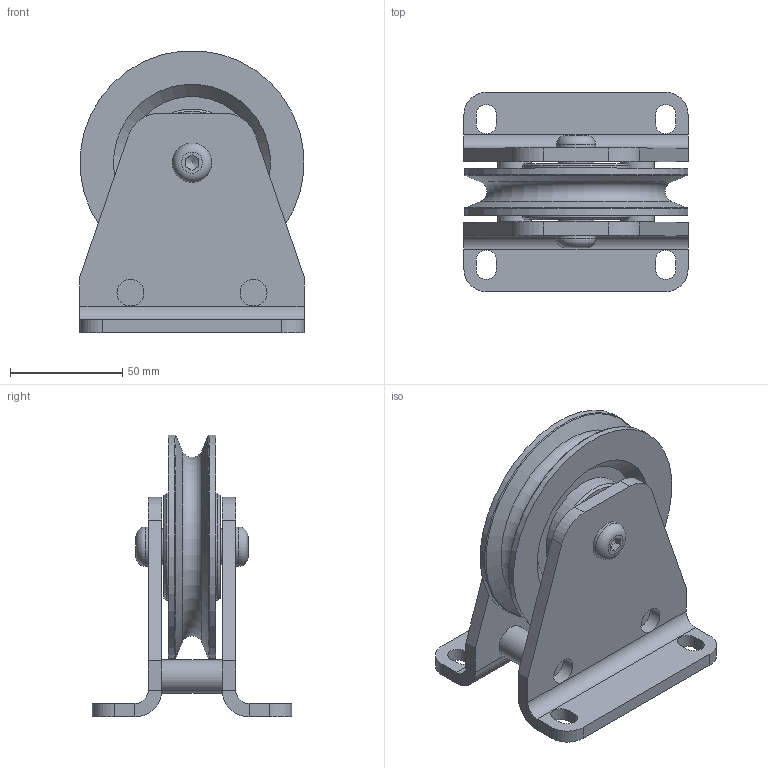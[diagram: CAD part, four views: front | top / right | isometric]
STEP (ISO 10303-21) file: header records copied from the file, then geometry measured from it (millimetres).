
FILE_DESCRIPTION(/* description */ ('Seilrollenbock ø100 Stahl Gleitlager komplett'),/* implementation_level */ '2;1');
FILE_NAME(/* name */ 'Z:\Workspace\03 Seilrollen\1.405 Seilrollenbock Stahl Gleitlager\1.405.03 Seilrollenbock ø100 Stahl Gleitlager\1.405.03 Seilrollenbock ø100 Stahl Gleitlager komplett.stp',/* time_stamp */ '2021-10-05T14:30:48+02:00',/* author */ ('cad-user'),/* organization */ (''),/* preprocessor_version */ 'ST-DEVELOPER v18',/* originating_system */ 'Autodesk Inventor 2020',/* authorisation */ '');
FILE_SCHEMA (('AUTOMOTIVE_DESIGN { 1 0 10303 214 3 1 1 }'));
Length unit declared in the file: millimetre
Products named in the file (8): 1.405.03 Seilrollenbock ø100 Stahl Gleitlager kompl
ett; 1.405.03.01 Seilrollenbock Schweißteil; 1.405.03.01 Blech; 1.405.03.01 Distanzachse; 1.405.03.02 Achse; ISO 7380-1 - M10 x 16; 1.401.03 Seilrolle ø100 Buchse ; Lagerbuchse 1625-DU
Assembly tree (10 placements, depth 3):
  1.405.03 Seilrollenbock ø100 Stahl Gleitlager kompl
ett
    1.405.03.01 Seilrollenbock Schweißteil
      1.405.03.01 Blech  x2
      1.405.03.01 Distanzachse  x2
    1.405.03.02 Achse
    ISO 7380-1 - M10 x 16  x2
    1.401.03 Seilrolle ø100 Buchse 
    Lagerbuchse 1625-DU
Bounding box: 100 x 89 x 125.82 mm (x, y, z)
Volume: 253391.9 mm3; surface area: 84446.2 mm2
Topology: 9 solids, 9 shells, 131 faces, 346 edges, 229 vertices
Faces by surface type: plane 68, cylinder 42, cone 14, torus 7
Full cylindrical faces by diameter (mm): 8.376 x1, 10 x2, 10.4 x2, 12 x4, 15 x2, 16 x1, 17.5 x2, 18 x1, 48 x2, 100 x2
Entity records: 2925 total; most frequent: DIRECTION 512, CARTESIAN_POINT 480, ORIENTED_EDGE 428, EDGE_CURVE 214, AXIS2_PLACEMENT_3D 209, VERTEX_POINT 144, CIRCLE 109, EDGE_LOOP 98
